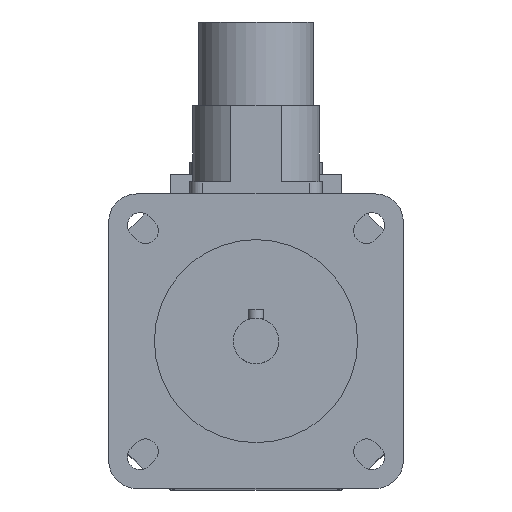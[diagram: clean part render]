
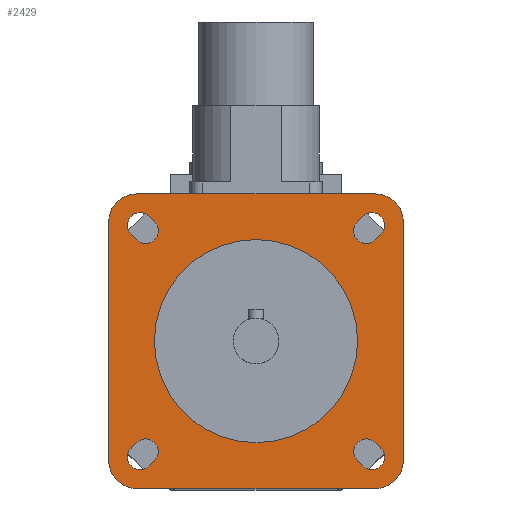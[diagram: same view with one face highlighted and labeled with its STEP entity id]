
A CAD part, top view. The second image highlights one B-rep face of the part: STEP entity #2429.
In plain terms, the highlighted planar face has unit normal (0, 0, 1).
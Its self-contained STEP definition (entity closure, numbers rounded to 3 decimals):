
#28=FACE_BOUND('',#427,.T.);
#29=FACE_BOUND('',#428,.T.);
#30=FACE_BOUND('',#429,.T.);
#31=FACE_BOUND('',#430,.T.);
#32=FACE_BOUND('',#431,.T.);
#47=CIRCLE('',#2525,20.);
#84=CIRCLE('',#2589,2.5);
#88=CIRCLE('',#2596,2.5);
#89=CIRCLE('',#2599,2.5);
#90=CIRCLE('',#2602,2.5);
#100=CIRCLE('',#2617,2.5);
#101=CIRCLE('',#2620,2.5);
#102=CIRCLE('',#2623,2.5);
#103=CIRCLE('',#2626,2.5);
#104=CIRCLE('',#2628,5.5);
#105=CIRCLE('',#2630,5.5);
#106=CIRCLE('',#2632,5.5);
#107=CIRCLE('',#2634,5.5);
#282=FACE_OUTER_BOUND('',#426,.T.);
#426=EDGE_LOOP('',(#1862,#1863,#1864,#1865,#1866,#1867,#1868,#1869));
#427=EDGE_LOOP('',(#1870));
#428=EDGE_LOOP('',(#1871,#1872,#1873,#1874));
#429=EDGE_LOOP('',(#1875,#1876,#1877,#1878));
#430=EDGE_LOOP('',(#1879,#1880,#1881,#1882));
#431=EDGE_LOOP('',(#1883,#1884,#1885,#1886));
#576=LINE('',#3759,#807);
#584=LINE('',#3783,#815);
#588=LINE('',#3793,#819);
#592=LINE('',#3803,#823);
#608=LINE('',#3854,#839);
#610=LINE('',#3860,#841);
#612=LINE('',#3866,#843);
#614=LINE('',#3872,#845);
#623=LINE('',#3900,#854);
#624=LINE('',#3901,#855);
#625=LINE('',#3902,#856);
#626=LINE('',#3903,#857);
#807=VECTOR('',#2980,1.5);
#815=VECTOR('',#3002,1.5);
#819=VECTOR('',#3012,1.5);
#823=VECTOR('',#3022,1.5);
#839=VECTOR('',#3068,1.5);
#841=VECTOR('',#3076,1.5);
#843=VECTOR('',#3084,1.5);
#845=VECTOR('',#3092,1.5);
#854=VECTOR('',#3123,47.);
#855=VECTOR('',#3124,47.);
#856=VECTOR('',#3125,47.);
#857=VECTOR('',#3126,47.);
#992=VERTEX_POINT('',#3580);
#1057=VERTEX_POINT('',#3756);
#1058=VERTEX_POINT('',#3758);
#1059=VERTEX_POINT('',#3762);
#1066=VERTEX_POINT('',#3780);
#1067=VERTEX_POINT('',#3782);
#1068=VERTEX_POINT('',#3786);
#1069=VERTEX_POINT('',#3790);
#1070=VERTEX_POINT('',#3792);
#1071=VERTEX_POINT('',#3796);
#1072=VERTEX_POINT('',#3800);
#1073=VERTEX_POINT('',#3802);
#1074=VERTEX_POINT('',#3806);
#1093=VERTEX_POINT('',#3852);
#1094=VERTEX_POINT('',#3858);
#1095=VERTEX_POINT('',#3864);
#1096=VERTEX_POINT('',#3870);
#1097=VERTEX_POINT('',#3876);
#1098=VERTEX_POINT('',#3878);
#1099=VERTEX_POINT('',#3882);
#1100=VERTEX_POINT('',#3884);
#1101=VERTEX_POINT('',#3888);
#1102=VERTEX_POINT('',#3890);
#1103=VERTEX_POINT('',#3894);
#1104=VERTEX_POINT('',#3896);
#1234=EDGE_CURVE('',#992,#992,#47,.T.);
#1320=EDGE_CURVE('',#1058,#1057,#576,.T.);
#1323=EDGE_CURVE('',#1057,#1059,#84,.T.);
#1332=EDGE_CURVE('',#1067,#1066,#584,.T.);
#1335=EDGE_CURVE('',#1066,#1068,#88,.T.);
#1337=EDGE_CURVE('',#1070,#1069,#588,.T.);
#1340=EDGE_CURVE('',#1069,#1071,#89,.T.);
#1342=EDGE_CURVE('',#1073,#1072,#592,.T.);
#1345=EDGE_CURVE('',#1072,#1074,#90,.T.);
#1368=EDGE_CURVE('',#1071,#1093,#608,.T.);
#1369=EDGE_CURVE('',#1093,#1070,#100,.T.);
#1371=EDGE_CURVE('',#1068,#1094,#610,.T.);
#1372=EDGE_CURVE('',#1094,#1067,#101,.T.);
#1374=EDGE_CURVE('',#1074,#1095,#612,.T.);
#1375=EDGE_CURVE('',#1095,#1073,#102,.T.);
#1377=EDGE_CURVE('',#1059,#1096,#614,.T.);
#1378=EDGE_CURVE('',#1096,#1058,#103,.T.);
#1380=EDGE_CURVE('',#1098,#1097,#104,.T.);
#1383=EDGE_CURVE('',#1100,#1099,#105,.T.);
#1386=EDGE_CURVE('',#1102,#1101,#106,.T.);
#1389=EDGE_CURVE('',#1104,#1103,#107,.T.);
#1391=EDGE_CURVE('',#1097,#1104,#623,.T.);
#1392=EDGE_CURVE('',#1103,#1102,#624,.T.);
#1393=EDGE_CURVE('',#1101,#1100,#625,.T.);
#1394=EDGE_CURVE('',#1099,#1098,#626,.T.);
#1862=ORIENTED_EDGE('',*,*,#1391,.T.);
#1863=ORIENTED_EDGE('',*,*,#1389,.T.);
#1864=ORIENTED_EDGE('',*,*,#1392,.T.);
#1865=ORIENTED_EDGE('',*,*,#1386,.T.);
#1866=ORIENTED_EDGE('',*,*,#1393,.T.);
#1867=ORIENTED_EDGE('',*,*,#1383,.T.);
#1868=ORIENTED_EDGE('',*,*,#1394,.T.);
#1869=ORIENTED_EDGE('',*,*,#1380,.T.);
#1870=ORIENTED_EDGE('',*,*,#1234,.T.);
#1871=ORIENTED_EDGE('',*,*,#1368,.T.);
#1872=ORIENTED_EDGE('',*,*,#1369,.T.);
#1873=ORIENTED_EDGE('',*,*,#1337,.T.);
#1874=ORIENTED_EDGE('',*,*,#1340,.T.);
#1875=ORIENTED_EDGE('',*,*,#1371,.T.);
#1876=ORIENTED_EDGE('',*,*,#1372,.T.);
#1877=ORIENTED_EDGE('',*,*,#1332,.T.);
#1878=ORIENTED_EDGE('',*,*,#1335,.T.);
#1879=ORIENTED_EDGE('',*,*,#1374,.T.);
#1880=ORIENTED_EDGE('',*,*,#1375,.T.);
#1881=ORIENTED_EDGE('',*,*,#1342,.T.);
#1882=ORIENTED_EDGE('',*,*,#1345,.T.);
#1883=ORIENTED_EDGE('',*,*,#1377,.T.);
#1884=ORIENTED_EDGE('',*,*,#1378,.T.);
#1885=ORIENTED_EDGE('',*,*,#1320,.T.);
#1886=ORIENTED_EDGE('',*,*,#1323,.T.);
#2328=PLANE('',#2635);
#2429=ADVANCED_FACE('',(#282,#28,#29,#30,#31,#32),#2328,.T.);
#2525=AXIS2_PLACEMENT_3D('',#3581,#2805,#2806);
#2589=AXIS2_PLACEMENT_3D('',#3764,#2985,#2986);
#2596=AXIS2_PLACEMENT_3D('',#3788,#3007,#3008);
#2599=AXIS2_PLACEMENT_3D('',#3798,#3017,#3018);
#2602=AXIS2_PLACEMENT_3D('',#3808,#3027,#3028);
#2617=AXIS2_PLACEMENT_3D('',#3856,#3071,#3072);
#2620=AXIS2_PLACEMENT_3D('',#3862,#3079,#3080);
#2623=AXIS2_PLACEMENT_3D('',#3868,#3087,#3088);
#2626=AXIS2_PLACEMENT_3D('',#3874,#3095,#3096);
#2628=AXIS2_PLACEMENT_3D('',#3879,#3100,#3101);
#2630=AXIS2_PLACEMENT_3D('',#3885,#3106,#3107);
#2632=AXIS2_PLACEMENT_3D('',#3891,#3112,#3113);
#2634=AXIS2_PLACEMENT_3D('',#3897,#3118,#3119);
#2635=AXIS2_PLACEMENT_3D('',#3899,#3121,#3122);
#2805=DIRECTION('center_axis',(0.,0.,-1.));
#2806=DIRECTION('ref_axis',(-1.,0.,0.));
#2980=DIRECTION('',(-0.707,-0.707,0.));
#2985=DIRECTION('center_axis',(0.,0.,-1.));
#2986=DIRECTION('ref_axis',(0.707,-0.707,0.));
#3002=DIRECTION('',(-0.707,0.707,0.));
#3007=DIRECTION('center_axis',(0.,0.,-1.));
#3008=DIRECTION('ref_axis',(-0.707,-0.707,0.));
#3012=DIRECTION('',(-0.707,-0.707,0.));
#3017=DIRECTION('center_axis',(0.,0.,-1.));
#3018=DIRECTION('ref_axis',(0.707,-0.707,0.));
#3022=DIRECTION('',(-0.707,0.707,0.));
#3027=DIRECTION('center_axis',(0.,0.,-1.));
#3028=DIRECTION('ref_axis',(-0.707,-0.707,0.));
#3068=DIRECTION('',(0.707,0.707,0.));
#3071=DIRECTION('center_axis',(0.,0.,-1.));
#3072=DIRECTION('ref_axis',(-0.707,0.707,0.));
#3076=DIRECTION('',(0.707,-0.707,0.));
#3079=DIRECTION('center_axis',(0.,0.,-1.));
#3080=DIRECTION('ref_axis',(0.707,0.707,0.));
#3084=DIRECTION('',(0.707,-0.707,0.));
#3087=DIRECTION('center_axis',(0.,0.,-1.));
#3088=DIRECTION('ref_axis',(0.707,0.707,0.));
#3092=DIRECTION('',(0.707,0.707,0.));
#3095=DIRECTION('center_axis',(0.,0.,-1.));
#3096=DIRECTION('ref_axis',(-0.707,0.707,0.));
#3100=DIRECTION('center_axis',(0.,0.,1.));
#3101=DIRECTION('ref_axis',(1.,0.,0.));
#3106=DIRECTION('center_axis',(0.,0.,1.));
#3107=DIRECTION('ref_axis',(0.,-1.,0.));
#3112=DIRECTION('center_axis',(0.,0.,1.));
#3113=DIRECTION('ref_axis',(-1.,0.,0.));
#3118=DIRECTION('center_axis',(0.,0.,1.));
#3119=DIRECTION('ref_axis',(0.,1.,0.));
#3121=DIRECTION('center_axis',(0.,0.,1.));
#3122=DIRECTION('ref_axis',(1.,0.,0.));
#3123=DIRECTION('',(-1.,0.,0.));
#3124=DIRECTION('',(0.,-1.,0.));
#3125=DIRECTION('',(1.,0.,0.));
#3126=DIRECTION('',(0.,1.,0.));
#3580=CARTESIAN_POINT('',(20.,0.,115.5));
#3581=CARTESIAN_POINT('Origin',(0.,0.,115.5));
#3756=CARTESIAN_POINT('',(-21.036,-24.572,115.5));
#3758=CARTESIAN_POINT('',(-19.976,-23.511,115.5));
#3759=CARTESIAN_POINT('',(-9.634,-13.17,115.5));
#3762=CARTESIAN_POINT('',(-24.572,-21.036,115.5));
#3764=CARTESIAN_POINT('Origin',(-22.804,-22.804,115.5));
#3780=CARTESIAN_POINT('',(-24.572,21.036,115.5));
#3782=CARTESIAN_POINT('',(-23.511,19.976,115.5));
#3783=CARTESIAN_POINT('',(-13.17,9.634,115.5));
#3786=CARTESIAN_POINT('',(-21.036,24.572,115.5));
#3788=CARTESIAN_POINT('Origin',(-22.804,22.804,115.5));
#3790=CARTESIAN_POINT('',(23.511,19.976,115.5));
#3792=CARTESIAN_POINT('',(24.572,21.036,115.5));
#3793=CARTESIAN_POINT('',(12.64,9.104,115.5));
#3796=CARTESIAN_POINT('',(19.976,23.511,115.5));
#3798=CARTESIAN_POINT('Origin',(21.744,21.744,115.5));
#3800=CARTESIAN_POINT('',(19.976,-23.511,115.5));
#3802=CARTESIAN_POINT('',(21.036,-24.572,115.5));
#3803=CARTESIAN_POINT('',(9.104,-12.64,115.5));
#3806=CARTESIAN_POINT('',(23.511,-19.976,115.5));
#3808=CARTESIAN_POINT('Origin',(21.744,-21.744,115.5));
#3852=CARTESIAN_POINT('',(21.036,24.572,115.5));
#3854=CARTESIAN_POINT('',(9.634,13.17,115.5));
#3856=CARTESIAN_POINT('Origin',(22.804,22.804,115.5));
#3858=CARTESIAN_POINT('',(-19.976,23.511,115.5));
#3860=CARTESIAN_POINT('',(-9.104,12.64,115.5));
#3862=CARTESIAN_POINT('Origin',(-21.744,21.744,115.5));
#3864=CARTESIAN_POINT('',(24.572,-21.036,115.5));
#3866=CARTESIAN_POINT('',(13.17,-9.634,115.5));
#3868=CARTESIAN_POINT('Origin',(22.804,-22.804,115.5));
#3870=CARTESIAN_POINT('',(-23.511,-19.976,115.5));
#3872=CARTESIAN_POINT('',(-12.64,-9.104,115.5));
#3874=CARTESIAN_POINT('Origin',(-21.744,-21.744,115.5));
#3876=CARTESIAN_POINT('',(23.5,29.,115.5));
#3878=CARTESIAN_POINT('',(29.,23.5,115.5));
#3879=CARTESIAN_POINT('Origin',(23.5,23.5,115.5));
#3882=CARTESIAN_POINT('',(29.,-23.5,115.5));
#3884=CARTESIAN_POINT('',(23.5,-29.,115.5));
#3885=CARTESIAN_POINT('Origin',(23.5,-23.5,115.5));
#3888=CARTESIAN_POINT('',(-23.5,-29.,115.5));
#3890=CARTESIAN_POINT('',(-29.,-23.5,115.5));
#3891=CARTESIAN_POINT('Origin',(-23.5,-23.5,115.5));
#3894=CARTESIAN_POINT('',(-29.,23.5,115.5));
#3896=CARTESIAN_POINT('',(-23.5,29.,115.5));
#3897=CARTESIAN_POINT('Origin',(-23.5,23.5,115.5));
#3899=CARTESIAN_POINT('Origin',(0.,0.,
115.5));
#3900=CARTESIAN_POINT('',(23.5,29.,115.5));
#3901=CARTESIAN_POINT('',(-29.,23.5,115.5));
#3902=CARTESIAN_POINT('',(-23.5,-29.,115.5));
#3903=CARTESIAN_POINT('',(29.,-23.5,115.5));
